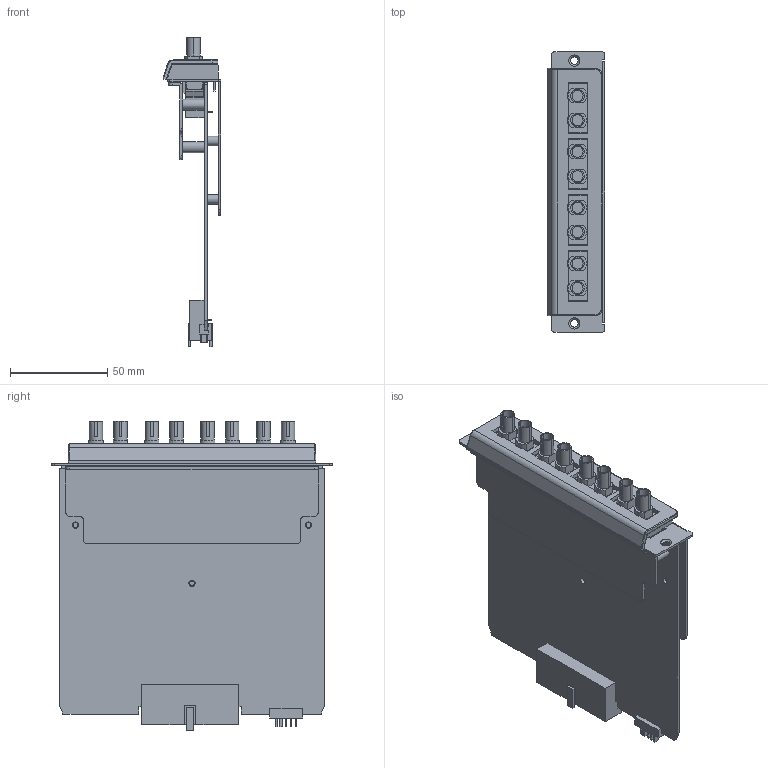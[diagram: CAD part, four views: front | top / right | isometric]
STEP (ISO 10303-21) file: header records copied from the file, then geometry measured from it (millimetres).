
FILE_DESCRIPTION((''),'2;1');
FILE_NAME('CM-600-4MST','2014-05-13T',('Sam_Liu'),(''),'PRO/ENGINEER BY PARAMETRIC TECHNOLOGY CORPORATION, 2013230','PRO/ENGINEER BY PARAMETRIC TECHNOLOGY CORPORATION, 2013230','');
FILE_SCHEMA(('CONFIG_CONTROL_DESIGN'));
Length unit declared in the file: millimetre
Products named in the file (1): CM-600-4MST
Bounding box: 29.7 x 144.4 x 159.45 mm (x, y, z)
Volume: 100415.4 mm3; surface area: 98847.9 mm2
Topology: 3 solids, 7 shells, 955 faces, 2474 edges, 1616 vertices
Faces by surface type: plane 614, cylinder 309, cone 12, torus 8, sphere 8, bspline 4
Entity records: 29340 total; most frequent: CARTESIAN_POINT 5332, DIRECTION 4990, ORIENTED_EDGE 4932, EDGE_CURVE 2466, VECTOR 1750, LINE 1750, AXIS2_PLACEMENT_3D 1620, VERTEX_POINT 1616
